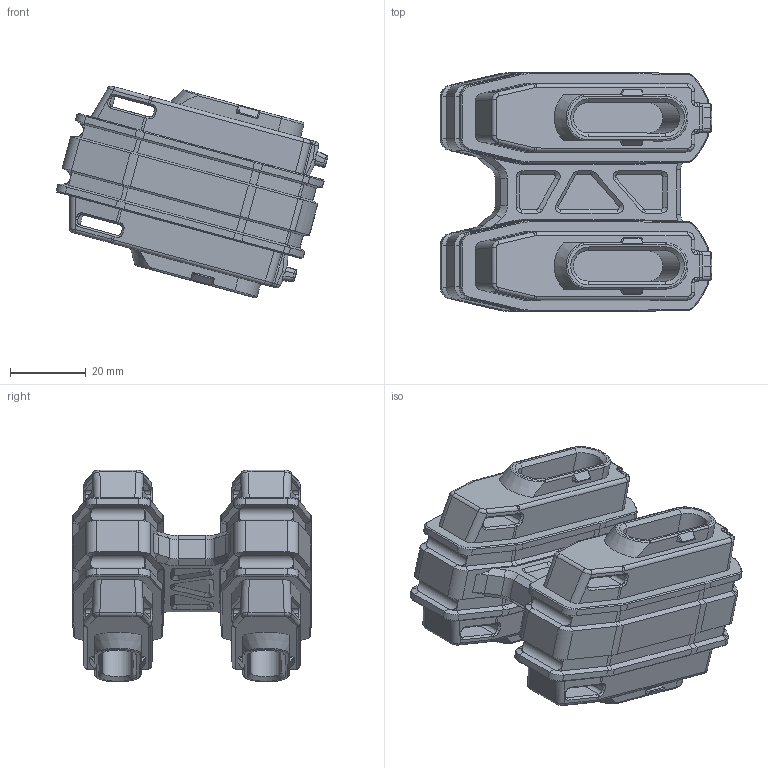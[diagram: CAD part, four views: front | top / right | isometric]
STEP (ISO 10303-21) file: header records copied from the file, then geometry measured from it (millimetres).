
FILE_DESCRIPTION(/* description */ ('STEP AP214'),/* implementation_level */ '2;1');
FILE_NAME(/* name */ 'Druck_Bodenplatte_4-fach.stp',/* time_stamp */ '2026-07-21T16:26:54+02:00',/* author */ ('Thomas'),/* organization */ (''),/* preprocessor_version */ 'ST-DEVELOPER v20.1',/* originating_system */ 'Autodesk Inventor 2026',/* authorisation */ '');
FILE_SCHEMA (('CONFIG_CONTROL_DESIGN'));
Products named in the file (1): Bodenplatte_4-fach
Bounding box: 71.53 x 62.8 x 55.76 mm (x, y, z)
Volume: 91435.1 mm3; surface area: 27873 mm2
Topology: 1 solids, 1 shells, 1274 faces, 3170 edges, 1884 vertices
Faces by surface type: plane 416, cylinder 338, bspline 304, cone 200, torus 8, sphere 8
Entity records: 49950 total; most frequent: CARTESIAN_POINT 21580, ORIENTED_EDGE 6292, DIRECTION 5428, EDGE_CURVE 3146, AXIS2_PLACEMENT_3D 1938, VERTEX_POINT 1884, LINE 1552, VECTOR 1552
